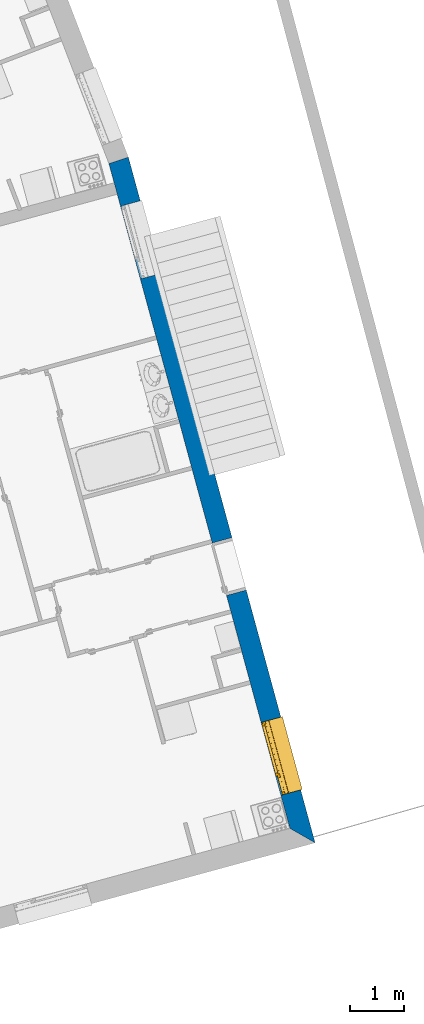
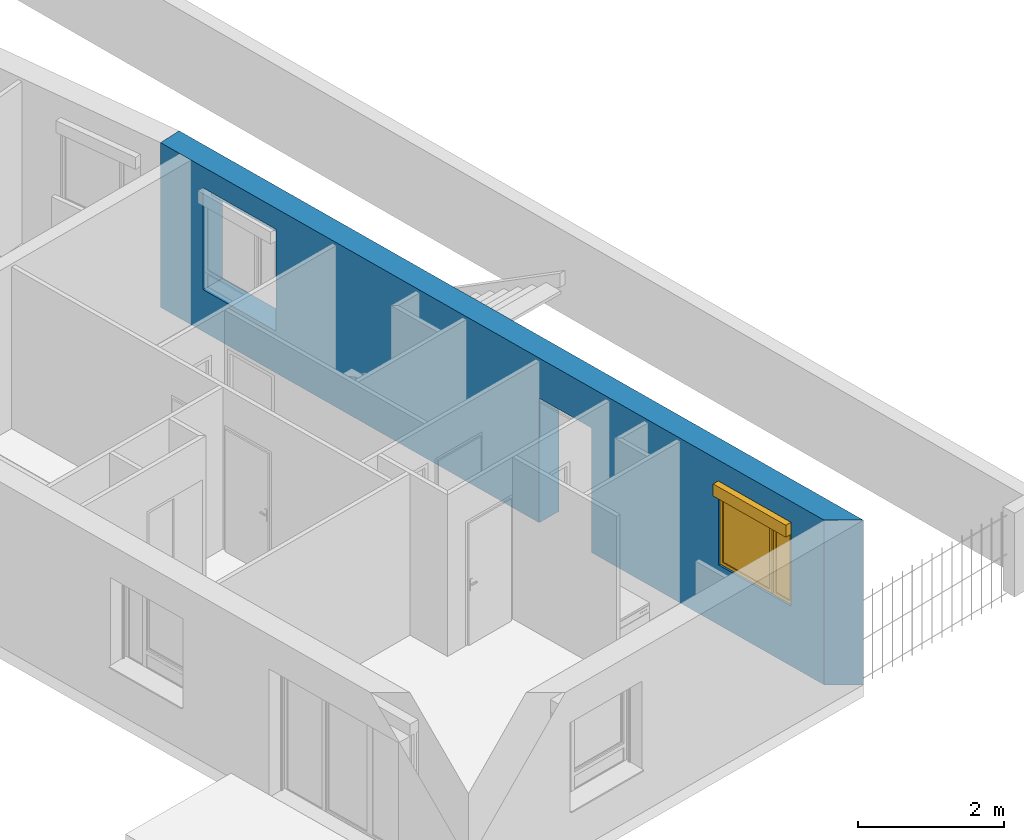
# One storey, part 81 of 195: 1 wall, 1 window, 3 openings.
"""IFC2X3 building model written with IfcOpenShell, lengths in metres."""

from ifc_helpers import new_model, entity, si_unit, converted_unit, derived_unit, money_unit, direction, frame, origin_with_axes, origin_2d_with_axis, place, context, subcontext, project, spatial, polyline, rectangle, outline, extrude, open_shell, faceted_brep, surface_model, source, transform, mapped, material, layer, layer_set, layer_usage, type_object, element, fill, save


model = new_model("IFC2X3")

# Units and contexts
model_context = context("Model", 3, precision=1e-05, world=origin_with_axes(), true_north=direction((0.0, 1.0)))
body_context = subcontext(model_context, "Body", "Model", "MODEL_VIEW")
ifc_project = project(units=[si_unit("LENGTHUNIT", "METRE"), si_unit("AREAUNIT", "SQUARE_METRE"), si_unit("VOLUMEUNIT", "CUBIC_METRE"), converted_unit("PLANEANGLEUNIT", "DEGREE", entity("IfcPlaneAngleMeasure", 0.0174532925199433), si_unit("PLANEANGLEUNIT", "RADIAN"), dimensions=[0, 0, 0, 0, 0, 0, 0]), money_unit("CHF"), converted_unit("TIMEUNIT", "Year", entity("IfcTimeMeasure", 31557600.0), si_unit("TIMEUNIT", "SECOND"), dimensions=[0, 0, 1, 0, 0, 0, 0]), si_unit("MASSUNIT", "GRAM", prefix="KILO"), si_unit("THERMODYNAMICTEMPERATUREUNIT", "DEGREE_CELSIUS"), si_unit("LUMINOUSINTENSITYUNIT", "LUMEN"), si_unit("ENERGYUNIT", "JOULE", prefix="MEGA"), derived_unit("THERMALCONDUCTANCEUNIT", [(si_unit("POWERUNIT", "WATT"), 1), (si_unit("LENGTHUNIT", "METRE"), -1), (si_unit("THERMODYNAMICTEMPERATUREUNIT", "KELVIN"), -1)]), derived_unit("SPECIFICHEATCAPACITYUNIT", [(si_unit("ENERGYUNIT", "JOULE"), 1), (si_unit("MASSUNIT", "GRAM", prefix="KILO"), -1), (si_unit("THERMODYNAMICTEMPERATUREUNIT", "KELVIN"), -1)]), derived_unit("MASSDENSITYUNIT", [(si_unit("MASSUNIT", "GRAM", prefix="KILO"), 1), (si_unit("VOLUMEUNIT", "CUBIC_METRE"), -1)])], contexts=[model_context])

# Site, building, storey
site_placement = place(None, origin_with_axes())
site = spatial("IfcSite", under=ifc_project, at=site_placement, Name="Site", CompositionType="ELEMENT")
building_placement = place(site_placement, origin_with_axes())
building = spatial("IfcBuilding", under=site, at=building_placement, Name="Bâtiment", CompositionType="ELEMENT")
storey_placement = place(building_placement, origin_with_axes())
storey = spatial("IfcBuildingStorey", under=building, at=storey_placement, Name="rdc", CompositionType="ELEMENT", Elevation=0.0)

# Wall, openings, window
ifc_material_1 = material(Name="Parpaing 312445824")
ifc_layer_1 = layer(ifc_material_1, 0.22, ventilated="UNKNOWN")
ifc_material_2 = material(Name="Isolant styromousse 301821074")
ifc_layer_2 = layer(ifc_material_2, 0.16, ventilated="UNKNOWN")
ifc_layer_set = layer_set([ifc_layer_1, ifc_layer_2], Name="isol int 22+16 0836643197")
ifc_layer_usage = layer_usage(ifc_layer_set, "AXIS2", "NEGATIVE", 0.0)
wall_type = type_object("IfcWallType", Name="isol int 22+16 0836643197 380", PredefinedType="NOTDEFINED")
wall_placement = place(storey_placement, frame((9593.67620369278, -1044.690928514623, 57.7), z_axis=(0.0, 0.0, 1.0), x_axis=(0.2627340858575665, -0.9648682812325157, 0.0)))
wall = element("IfcWallStandardCase", 1, at=wall_placement, inside=storey, type_object=wall_type, material=ifc_layer_usage, Name="Mur-113", context=body_context, shape_type="SweptSolid", body=[
    extrude(outline(polyline([(0.01930253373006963, -0.3799999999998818), (12.8068754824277, -0.3799999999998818), (13.18687548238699, 0.0), (0.0, 0.0), (0.01930253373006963, -0.3799999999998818)])), origin_with_axes(), (0.0, 0.0, 1.0), 2.75),
])
opening_1_placement = place(wall_placement, frame((1.540061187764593, 0.0, 0.7000000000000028), z_axis=(0.0, 0.0, 1.0), x_axis=(1.0, 0.0, 0.0)))
element("IfcOpeningElement", 2, at=opening_1_placement, cuts=wall, Name="Fen-045", context=body_context, shape_type="Brep", body=[
    faceted_brep([(-0.7000000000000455, -0.220000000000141, 1.5), (0.6999999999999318, -0.2200000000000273, 1.5), (0.6999999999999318, 3.343922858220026, 1.5), (-0.7000000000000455, 3.343922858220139, 1.5), (-0.7000000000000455, -0.220000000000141, 1.700000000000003), (0.6999999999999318, -0.2200000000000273, 1.700000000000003), (0.6999999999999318, -0.2999999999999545, 1.5), (0.6999999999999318, -0.2999999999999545, 0.0), (0.6999999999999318, 3.343922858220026, 0.0), (-0.7000000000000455, 3.343922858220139, 0.0), (-0.7000000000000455, -0.3000000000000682, 1.5), (-0.7000000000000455, -0.3000000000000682, 0.0), (-0.7000000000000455, -0.4799999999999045, 1.5), (-0.7000000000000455, -0.4799999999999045, 1.700000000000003), (0.6999999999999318, -0.4800000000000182, 1.700000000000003), (0.6999999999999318, -0.4800000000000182, 1.5), (0.6999999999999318, -3.72392285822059, 1.5), (0.6999999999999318, -3.72392285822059, 0.0), (-0.7000000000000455, -3.723922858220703, 0.0), (-0.7000000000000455, -3.723922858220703, 1.5)], [[[0, 1, 2, 3]], [[1, 0, 4, 5]], [[1, 6, 7, 8, 2]], [[2, 8, 9, 3]], [[10, 0, 3, 9, 11]], [[0, 10, 12, 13, 4]], [[14, 5, 4, 13]], [[6, 1, 5, 14, 15]], [[6, 15, 16, 17, 7]], [[7, 11, 9, 8]], [[12, 10, 11, 18, 19]], [[12, 15, 14, 13]], [[15, 12, 19, 16]], [[19, 18, 17, 16]], [[11, 7, 17, 18]]]),
])
opening_2_placement = place(wall_placement, frame((11.46788983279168, 0.0, 1.0), z_axis=(0.0, 0.0, 1.0), x_axis=(1.0, 0.0, 0.0)))
opening_2 = element("IfcOpeningElement", 3, at=opening_2_placement, cuts=wall, Name="Fen-045", context=body_context, shape_type="Brep", body=[
    faceted_brep([(-0.6999999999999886, -0.220000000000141, 1.200000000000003), (0.6999999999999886, -0.220000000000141, 1.200000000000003), (0.6999999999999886, 3.343922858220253, 1.200000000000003), (-0.7000000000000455, 3.343922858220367, 1.200000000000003), (-0.6999999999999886, -0.220000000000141, 1.399999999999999), (0.6999999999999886, -0.220000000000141, 1.399999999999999), (0.6999999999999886, -0.3000000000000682, 1.200000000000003), (0.6999999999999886, -0.3000000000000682, 0.0), (0.6999999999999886, 3.343922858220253, 0.0), (-0.7000000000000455, 3.343922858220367, 0.0), (-0.6999999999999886, -0.3000000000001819, 1.200000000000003), (-0.6999999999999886, -0.3000000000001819, 0.0), (-0.6999999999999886, -0.4800000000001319, 1.200000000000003), (-0.6999999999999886, -0.4800000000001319, 1.399999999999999), (0.6999999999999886, -0.4800000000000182, 1.399999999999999), (0.6999999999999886, -0.4800000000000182, 1.200000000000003), (0.7000000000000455, -3.723922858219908, 1.200000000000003), (0.7000000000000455, -3.723922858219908, 0.0), (-0.6999999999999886, -3.723922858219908, 0.0), (-0.6999999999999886, -3.723922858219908, 1.200000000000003)], [[[0, 1, 2, 3]], [[1, 0, 4, 5]], [[1, 6, 7, 8, 2]], [[2, 8, 9, 3]], [[10, 0, 3, 9, 11]], [[0, 10, 12, 13, 4]], [[14, 5, 4, 13]], [[6, 1, 5, 14, 15]], [[6, 15, 16, 17, 7]], [[7, 11, 9, 8]], [[12, 10, 11, 18, 19]], [[12, 15, 14, 13]], [[15, 12, 19, 16]], [[19, 18, 17, 16]], [[11, 7, 17, 18]]]),
])
opening_3_placement = place(wall_placement, frame((7.820826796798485, 0.0, 0.0), z_axis=(0.0, 0.0, 1.0), x_axis=(1.0, 0.0, 0.0)))
element("IfcOpeningElement", 4, at=opening_3_placement, cuts=wall, Name="Por-290", context=body_context, shape_type="SweptSolid", body=[
    extrude(rectangle(XDim=1.01000001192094, YDim=2.079999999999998, at=origin_2d_with_axis()), frame((-5.960487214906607e-09, 0.3799999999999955, 1.039999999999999), z_axis=(0.0, -1.0, 0.0), x_axis=(-1.0, 0.0, 0.0)), (0.0, 0.0, 1.0), 0.76),
])
window_style = type_object("IfcWindowStyle", Name="Fenêtre variable 27", ConstructionType="NOTDEFINED", OperationType="DOUBLE_PANEL_VERTICAL", ParameterTakesPrecedence=False, Sizeable=False)
shared_shape = source(origin_with_axes(), body_context, "Body", "SurfaceModel", [
    surface_model("IfcShellBasedSurfaceModel", [(0.7, -0.05100000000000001, 0.05), (-0.7, -0.05100000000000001, 0.05000000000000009), (-0.7, -0.05100000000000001, 0.04000000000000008), (0.7, -0.05100000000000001, 0.04), (-0.7, -0.3799999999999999, 0.02900000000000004), (0.7, -0.3799999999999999, 0.02899999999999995), (-0.7, -0.3799999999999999, 0.00900000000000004), (0.7, -0.3799999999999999, 0.008999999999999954), (-0.7, -0.3699999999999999, 0.01900000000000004), (0.7, -0.3699999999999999, 0.01899999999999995)], [open_shell([[[0, 1, 2, 3]], [[3, 2, 4, 5]], [[5, 4, 6, 7]], [[7, 6, 8, 9]]])]),
    faceted_brep([(0.7, -0.13, 1.4), (0.7, 0.13, 1.4), (0.697, 0.13, 1.4), (0.697, -0.13, 1.4), (0.7, -0.13, 1.2), (0.7, 0.13, 1.2), (0.697, 0.13, 1.2), (0.697, -0.13, 1.2)], [[[0, 1, 2, 3]], [[0, 4, 5, 1]], [[1, 5, 6, 2]], [[3, 2, 6, 7]], [[4, 0, 3, 7]], [[5, 4, 7, 6]]]),
    faceted_brep([(-0.6970000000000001, -0.1299999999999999, 1.4), (-0.6970000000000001, 0.1300000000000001, 1.4), (-0.7000000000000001, 0.1300000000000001, 1.4), (-0.7000000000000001, -0.1299999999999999, 1.4), (-0.6970000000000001, -0.1299999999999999, 1.2), (-0.6970000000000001, 0.1300000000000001, 1.2), (-0.7000000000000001, 0.1300000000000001, 1.2), (-0.7000000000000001, -0.1299999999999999, 1.2)], [[[0, 1, 2, 3]], [[0, 4, 5, 1]], [[1, 5, 6, 2]], [[3, 2, 6, 7]], [[4, 0, 3, 7]], [[5, 4, 7, 6]]]),
    faceted_brep([(0.697, -0.13, 1.2), (0.697, -0.13, 1.4), (-0.697, -0.1299999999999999, 1.4), (-0.697, -0.1299999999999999, 1.2), (0.697, -0.127, 1.2), (0.697, -0.127, 1.397), (0.697, 0.127, 1.397), (0.697, 0.127, 1.203), (0.697, -0.108, 1.203), (0.697, -0.108, 1.2), (0.697, 0.13, 1.2), (0.697, 0.13, 1.4), (-0.697, 0.1300000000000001, 1.4), (-0.697, 0.1300000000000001, 1.2), (-0.697, -0.1079999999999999, 1.2), (-0.697, -0.1079999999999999, 1.203), (-0.697, 0.1270000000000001, 1.203), (-0.697, 0.1270000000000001, 1.397), (-0.697, -0.1269999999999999, 1.397), (-0.697, -0.1269999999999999, 1.2)], [[[0, 1, 2, 3]], [[0, 4, 5, 6, 7, 8, 9, 10, 11, 1]], [[1, 11, 12, 2]], [[3, 2, 12, 13, 14, 15, 16, 17, 18, 19]], [[4, 0, 3, 19]], [[5, 4, 19, 18]], [[6, 5, 18, 17]], [[7, 6, 17, 16]], [[8, 7, 16, 15]], [[9, 8, 15, 14]], [[10, 9, 14, 13]], [[11, 10, 13, 12]]]),
    faceted_brep([(0.694, -0.08075423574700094, 1.285760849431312), (0.694, -0.07705479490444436, 1.271954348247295), (0.694, -0.07101408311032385, 1.259), (0.694, -0.06281564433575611, 1.247291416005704), (0.694, -0.05270858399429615, 1.237184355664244), (0.694, -0.04099999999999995, 1.228985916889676), (0.694, -0.02804565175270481, 1.222945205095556), (0.694, -0.01423915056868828, 1.219245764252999), (0.694, 0.0, 1.218), (0.694, 0.01423915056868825, 1.219245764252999), (0.694, 0.02804565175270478, 1.222945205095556), (0.694, 0.04099999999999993, 1.228985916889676), (0.694, 0.05270858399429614, 1.237184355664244), (0.694, 0.06281564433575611, 1.247291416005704), (0.694, 0.07101408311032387, 1.259), (0.694, 0.07705479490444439, 1.271954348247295), (0.694, 0.08075423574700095, 1.285760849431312), (0.694, 0.0819999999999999, 1.3), (0.694, 0.08075423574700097, 1.314239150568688), (0.694, 0.0770547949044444, 1.328045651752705), (0.694, 0.07101408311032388, 1.341), (0.694, 0.06281564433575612, 1.352708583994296), (0.694, 0.05270858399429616, 1.362815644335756), (0.694, 0.04099999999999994, 1.371014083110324), (0.694, 0.02804565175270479, 1.377054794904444), (0.694, 0.01423915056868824, 1.380754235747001), (0.694, 0.0, 1.382), (0.694, -0.01423915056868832, 1.380754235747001), (0.694, -0.02804565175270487, 1.377054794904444), (0.694, -0.04100000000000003, 1.371014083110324), (0.694, -0.05270858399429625, 1.362815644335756), (0.694, -0.06281564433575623, 1.352708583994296), (0.694, -0.07101408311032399, 1.341), (0.694, -0.07705479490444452, 1.328045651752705), (0.694, -0.0807542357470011, 1.314239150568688), (0.694, -0.08200000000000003, 1.3), (-0.694, -0.08075423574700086, 1.285760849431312), (-0.694, -0.07705479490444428, 1.271954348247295), (-0.694, -0.07101408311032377, 1.259), (-0.694, -0.06281564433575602, 1.247291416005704), (-0.694, -0.05270858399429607, 1.237184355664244), (-0.694, -0.04099999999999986, 1.228985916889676), (-0.694, -0.02804565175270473, 1.222945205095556), (-0.694, -0.0142391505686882, 1.219245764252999), (-0.694, 0.0, 1.218), (-0.694, 0.01423915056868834, 1.219245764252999), (-0.694, 0.02804565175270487, 1.222945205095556), (-0.694, 0.04100000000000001, 1.228985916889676), (-0.694, 0.05270858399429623, 1.237184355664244), (-0.694, 0.06281564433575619, 1.247291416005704), (-0.694, 0.07101408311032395, 1.259), (-0.694, 0.07705479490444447, 1.271954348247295), (-0.694, 0.08075423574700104, 1.285760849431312), (-0.694, 0.08199999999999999, 1.3), (-0.694, 0.08075423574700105, 1.314239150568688), (-0.694, 0.07705479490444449, 1.328045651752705), (-0.694, 0.07101408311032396, 1.341), (-0.694, 0.0628156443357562, 1.352708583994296), (-0.694, 0.05270858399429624, 1.362815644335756), (-0.694, 0.04100000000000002, 1.371014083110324), (-0.694, 0.02804565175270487, 1.377054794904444), (-0.694, 0.01423915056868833, 1.380754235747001), (-0.694, 0.0, 1.382), (-0.694, -0.01423915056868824, 1.380754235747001), (-0.694, -0.02804565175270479, 1.377054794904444), (-0.694, -0.04099999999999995, 1.371014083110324), (-0.694, -0.05270858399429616, 1.362815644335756), (-0.694, -0.06281564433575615, 1.352708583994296), (-0.694, -0.07101408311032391, 1.341), (-0.694, -0.07705479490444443, 1.328045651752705), (-0.694, -0.08075423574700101, 1.314239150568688), (-0.694, -0.08199999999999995, 1.3)], [[[0, 1, 2, 3, 4, 5, 6, 7, 8, 9, 10, 11, 12, 13, 14, 15, 16, 17, 18, 19, 20, 21, 22, 23, 24, 25, 26, 27, 28, 29, 30, 31, 32, 33, 34, 35]], [[1, 0, 36, 37]], [[2, 1, 37, 38]], [[3, 2, 38, 39]], [[4, 3, 39, 40]], [[5, 4, 40, 41]], [[6, 5, 41, 42]], [[7, 6, 42, 43]], [[8, 7, 43, 44]], [[9, 8, 44, 45]], [[10, 9, 45, 46]], [[11, 10, 46, 47]], [[12, 11, 47, 48]], [[13, 12, 48, 49]], [[14, 13, 49, 50]], [[15, 14, 50, 51]], [[16, 15, 51, 52]], [[17, 16, 52, 53]], [[18, 17, 53, 54]], [[19, 18, 54, 55]], [[20, 19, 55, 56]], [[21, 20, 56, 57]], [[22, 21, 57, 58]], [[23, 22, 58, 59]], [[24, 23, 59, 60]], [[25, 24, 60, 61]], [[26, 25, 61, 62]], [[27, 26, 62, 63]], [[28, 27, 63, 64]], [[29, 28, 64, 65]], [[30, 29, 65, 66]], [[31, 30, 66, 67]], [[32, 31, 67, 68]], [[33, 32, 68, 69]], [[34, 33, 69, 70]], [[35, 34, 70, 71]], [[0, 35, 71, 36]], [[36, 71, 70, 69, 68, 67, 66, 65, 64, 63, 62, 61, 60, 59, 58, 57, 56, 55, 54, 53, 52, 51, 50, 49, 48, 47, 46, 45, 44, 43, 42, 41, 40, 39, 38, 37]]]),
    faceted_brep([(-0.7, -0.105, 0.03), (-0.7, -0.13, 0.03), (-0.7, -0.1299999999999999, 1.2), (-0.7, -0.1049999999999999, 1.2), (-0.6749999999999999, -0.105, 0.03), (-0.6749999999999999, -0.108, 0.03), (-0.697, -0.108, 0.03), (-0.697, -0.127, 0.03), (-0.6749999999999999, -0.127, 0.03), (-0.6749999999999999, -0.13, 0.03), (-0.6749999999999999, -0.1299999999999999, 1.2), (-0.6749999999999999, -0.1269999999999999, 1.2), (-0.697, -0.1269999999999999, 1.2), (-0.697, -0.1079999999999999, 1.2), (-0.6749999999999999, -0.1079999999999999, 1.2), (-0.6749999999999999, -0.1049999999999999, 1.2)], [[[0, 1, 2, 3]], [[0, 4, 5, 6, 7, 8, 9, 1]], [[1, 9, 10, 2]], [[3, 2, 10, 11, 12, 13, 14, 15]], [[4, 0, 3, 15]], [[5, 4, 15, 14]], [[6, 5, 14, 13]], [[7, 6, 13, 12]], [[8, 7, 12, 11]], [[9, 8, 11, 10]]]),
    faceted_brep([(0.7, -0.105, 0.03), (0.7, -0.1049999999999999, 1.2), (0.7, -0.1299999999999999, 1.2), (0.7, -0.13, 0.03), (0.6749999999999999, -0.105, 0.03), (0.6749999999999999, -0.1049999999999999, 1.2), (0.6749999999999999, -0.1079999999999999, 1.2), (0.697, -0.1079999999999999, 1.2), (0.697, -0.1269999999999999, 1.2), (0.6749999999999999, -0.1269999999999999, 1.2), (0.6749999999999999, -0.1299999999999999, 1.2), (0.6749999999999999, -0.13, 0.03), (0.6749999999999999, -0.127, 0.03), (0.697, -0.127, 0.03), (0.697, -0.108, 0.03), (0.6749999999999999, -0.108, 0.03)], [[[0, 1, 2, 3]], [[4, 5, 1, 0]], [[1, 5, 6, 7, 8, 9, 10, 2]], [[3, 2, 10, 11]], [[0, 3, 11, 12, 13, 14, 15, 4]], [[15, 6, 5, 4]], [[14, 7, 6, 15]], [[13, 8, 7, 14]], [[12, 9, 8, 13]], [[11, 10, 9, 12]]]),
    surface_model("IfcShellBasedSurfaceModel", [(0.697, -0.115, 1.3), (-0.697, -0.1149999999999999, 1.3), (-0.697, -0.12, 1.3), (0.697, -0.12, 1.3), (0.697, -0.115, 1.3), (0.697, -0.12, 1.3), (-0.697, -0.1199999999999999, 1.3), (-0.697, -0.1149999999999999, 1.3)], [open_shell([[[0, 1, 2, 3]], [[4, 5, 6, 7]]])]),
    faceted_brep([(0.697, -0.115, 1.3), (0.697, -0.1166666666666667, 1.283333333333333), (-0.697, -0.1166666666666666, 1.283333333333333), (-0.697, -0.1149999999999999, 1.3), (0.697, -0.12, 1.3), (0.697, -0.1216666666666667, 1.283333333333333), (0.697, -0.1216666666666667, 1.266666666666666), (0.697, -0.12, 1.25), (0.697, -0.115, 1.25), (0.697, -0.1166666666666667, 1.266666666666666), (-0.697, -0.1166666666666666, 1.266666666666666), (-0.697, -0.1149999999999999, 1.25), (-0.697, -0.1199999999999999, 1.25), (-0.697, -0.1216666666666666, 1.266666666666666), (-0.697, -0.1216666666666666, 1.283333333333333), (-0.697, -0.1199999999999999, 1.3)], [[[0, 1, 2, 3]], [[0, 4, 5, 6, 7, 8, 9, 1]], [[1, 9, 10, 2]], [[3, 2, 10, 11, 12, 13, 14, 15]], [[4, 0, 3, 15]], [[5, 4, 15, 14]], [[6, 5, 14, 13]], [[7, 6, 13, 12]], [[8, 7, 12, 11]], [[9, 8, 11, 10]]]),
    faceted_brep([(0.697, -0.115, 1.25), (0.697, -0.1166666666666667, 1.233333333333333), (-0.697, -0.1166666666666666, 1.233333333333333), (-0.697, -0.1149999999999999, 1.25), (0.697, -0.12, 1.25), (0.697, -0.1216666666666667, 1.233333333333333), (0.697, -0.1216666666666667, 1.216666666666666), (0.697, -0.12, 1.2), (0.697, -0.115, 1.2), (0.697, -0.1166666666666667, 1.216666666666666), (-0.697, -0.1166666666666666, 1.216666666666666), (-0.697, -0.1149999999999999, 1.2), (-0.697, -0.1199999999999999, 1.2), (-0.697, -0.1216666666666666, 1.216666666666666), (-0.697, -0.1216666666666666, 1.233333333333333), (-0.697, -0.1199999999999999, 1.25)], [[[0, 1, 2, 3]], [[0, 4, 5, 6, 7, 8, 9, 1]], [[1, 9, 10, 2]], [[3, 2, 10, 11, 12, 13, 14, 15]], [[4, 0, 3, 15]], [[5, 4, 15, 14]], [[6, 5, 14, 13]], [[7, 6, 13, 12]], [[8, 7, 12, 11]], [[9, 8, 11, 10]]]),
    faceted_brep([(0.6749999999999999, 0.0, 1.15), (0.6749999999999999, -0.02500000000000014, 1.15), (0.6499999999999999, -0.02500000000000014, 1.15), (0.6499999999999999, -0.05000000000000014, 1.15), (0.7, -0.05000000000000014, 1.15), (0.7, 0.0, 1.15), (0.6749999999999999, 0.0, 0.05000000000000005), (0.6749999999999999, -0.02500000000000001, 0.05000000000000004), (0.6499999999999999, -0.02500000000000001, 0.05000000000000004), (0.6499999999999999, -0.05000000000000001, 0.05000000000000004), (0.7, -0.05000000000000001, 0.05000000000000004), (0.7, 0.0, 0.05000000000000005)], [[[0, 1, 2, 3, 4, 5]], [[1, 0, 6, 7]], [[8, 2, 1, 7]], [[2, 8, 9, 3]], [[4, 3, 9, 10]], [[5, 4, 10, 11]], [[6, 0, 5, 11]], [[7, 6, 11, 10, 9, 8]]]),
    faceted_brep([(-0.3068894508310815, -0.02500000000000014, 1.15), (-0.3318894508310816, -0.02500000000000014, 1.15), (-0.3318894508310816, 0.0, 1.15), (-0.3768894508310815, 0.0, 1.15), (-0.3768894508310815, -0.05000000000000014, 1.15), (-0.3068894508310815, -0.05000000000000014, 1.15), (-0.3068894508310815, -0.02500000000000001, 0.05000000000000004), (-0.3318894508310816, -0.02500000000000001, 0.05000000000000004), (-0.3318894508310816, 0.0, 0.05000000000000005), (-0.3768894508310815, 0.0, 0.05000000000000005), (-0.3768894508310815, -0.05000000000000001, 0.05000000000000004), (-0.3068894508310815, -0.05000000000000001, 0.05000000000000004)], [[[0, 1, 2, 3, 4, 5]], [[1, 0, 6, 7]], [[8, 2, 1, 7]], [[2, 8, 9, 3]], [[9, 10, 4, 3]], [[10, 11, 5, 4]], [[6, 0, 5, 11]], [[7, 6, 11, 10, 9, 8]]]),
    faceted_brep([(-0.3068894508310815, -0.02500000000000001, 0.05000000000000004), (-0.3318894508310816, -0.02500000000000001, 0.05000000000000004), (-0.3318894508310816, 0.0, 0.05000000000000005), (-0.3768894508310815, 0.0, 0.05000000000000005), (-0.3768894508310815, -0.05000000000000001, 0.05000000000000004), (-0.3068894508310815, -0.05000000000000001, 0.05000000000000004), (0.6499999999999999, -0.02500000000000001, 0.05000000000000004), (0.6749999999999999, -0.02500000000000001, 0.05000000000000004), (0.6749999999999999, -0.025, 0.02500000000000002), (-0.3318894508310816, -0.025, 0.02500000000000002), (-0.3318894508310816, 0.0, 0.02500000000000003), (0.6749999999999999, 0.0, 0.02500000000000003), (0.6749999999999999, 0.0, 0.05000000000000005), (0.7, 0.0, 0.05000000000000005), (0.7, 0.0, 0.0), (-0.7, 0.0, 0.0), (-0.7, 0.0, 0.05000000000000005), (-0.6499999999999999, 0.0, 0.05000000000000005), (-0.6499999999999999, -0.05000000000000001, 0.05000000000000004), (0.7, -0.05000000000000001, 0.05000000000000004), (0.6499999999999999, -0.05000000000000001, 0.05000000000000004), (-0.7, -0.05000000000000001, 0.05000000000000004), (-0.7, -0.05, 0.0), (0.7, -0.05, 0.0)], [[[0, 1, 2, 3, 4, 5]], [[1, 0, 6, 7, 8, 9]], [[10, 2, 1, 9]], [[11, 12, 13, 14, 15, 16, 17, 3, 2, 10]], [[17, 18, 4, 3]], [[19, 20, 5, 4, 18, 21, 22, 23]], [[6, 0, 5, 20]], [[7, 6, 20, 19, 13, 12]], [[7, 12, 11, 8]], [[11, 10, 9, 8]], [[13, 19, 23, 14]], [[14, 23, 22, 15]], [[15, 22, 21, 16]], [[16, 21, 18, 17]]]),
    faceted_brep([(0.6749999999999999, 0.0, 1.15), (0.6749999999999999, 0.0, 1.175), (-0.3318894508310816, 0.0, 1.175), (-0.3318894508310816, 0.0, 1.15), (-0.3768894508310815, 0.0, 1.15), (-0.6499999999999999, 0.0, 1.15), (-0.7, 0.0, 1.15), (-0.7, 0.0, 1.2), (0.7, 0.0, 1.2), (0.7, 0.0, 1.15), (0.6749999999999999, -0.02500000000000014, 1.15), (0.6749999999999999, -0.02500000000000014, 1.175), (-0.3318894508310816, -0.02500000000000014, 1.175), (-0.3318894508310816, -0.02500000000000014, 1.15), (-0.3068894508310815, -0.02500000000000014, 1.15), (-0.3068894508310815, -0.05000000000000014, 1.15), (-0.3768894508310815, -0.05000000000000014, 1.15), (-0.6499999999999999, -0.05000000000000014, 1.15), (-0.7, -0.05000000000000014, 1.15), (-0.7, -0.05000000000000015, 1.2), (0.7, -0.05000000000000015, 1.2), (0.7, -0.05000000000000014, 1.15), (0.6499999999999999, -0.05000000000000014, 1.15), (0.6499999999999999, -0.02500000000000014, 1.15)], [[[0, 1, 2, 3, 4, 5, 6, 7, 8, 9]], [[1, 0, 10, 11]], [[2, 1, 11, 12]], [[3, 2, 12, 13]], [[13, 14, 15, 16, 4, 3]], [[4, 16, 17, 5]], [[5, 17, 18, 6]], [[6, 18, 19, 7]], [[7, 19, 20, 8]], [[8, 20, 21, 9]], [[10, 0, 9, 21, 22, 23]], [[14, 13, 12, 11, 10, 23]], [[14, 23, 22, 15]], [[16, 15, 22, 21, 20, 19, 18, 17]]]),
    faceted_brep([(-0.6499999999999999, -0.05000000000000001, 0.05), (-0.7, -0.05000000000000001, 0.05), (-0.7, 0.0, 0.05000000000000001), (-0.6499999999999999, 0.0, 0.05000000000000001), (-0.6499999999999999, -0.05000000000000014, 1.15), (-0.7, -0.05000000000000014, 1.15), (-0.7, 0.0, 1.15), (-0.6499999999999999, 0.0, 1.15)], [[[0, 1, 2, 3]], [[0, 4, 5, 1]], [[1, 5, 6, 2]], [[3, 2, 6, 7]], [[4, 0, 3, 7]], [[5, 4, 7, 6]]]),
    faceted_brep([(0.625, -0.02500000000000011, 1.125), (0.6749999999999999, -0.02500000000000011, 1.125), (0.6749999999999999, 0.0249999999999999, 1.125), (0.625, 0.0249999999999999, 1.125), (0.625, -0.02499999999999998, 0.07500000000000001), (0.6749999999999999, -0.02499999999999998, 0.07500000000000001), (0.6749999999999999, 0.02500000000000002, 0.07500000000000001), (0.625, 0.02500000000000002, 0.07500000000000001)], [[[0, 1, 2, 3]], [[0, 4, 5, 1]], [[1, 5, 6, 2]], [[3, 2, 6, 7]], [[4, 0, 3, 7]], [[5, 4, 7, 6]]]),
    faceted_brep([(-0.2818894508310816, -0.02500000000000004, 0.07500000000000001), (-0.3318894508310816, -0.02500000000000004, 0.07500000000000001), (-0.3318894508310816, 0.02499999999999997, 0.07500000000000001), (-0.2818894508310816, 0.02499999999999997, 0.07500000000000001), (-0.2818894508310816, -0.02500000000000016, 1.125), (-0.3318894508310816, -0.02500000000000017, 1.125), (-0.3318894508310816, 0.02499999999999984, 1.125), (-0.2818894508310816, 0.02499999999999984, 1.125)], [[[0, 1, 2, 3]], [[0, 4, 5, 1]], [[1, 5, 6, 2]], [[3, 2, 6, 7]], [[4, 0, 3, 7]], [[5, 4, 7, 6]]]),
    faceted_brep([(-0.3318894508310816, -0.02500000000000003, 0.025), (-0.3318894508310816, -0.02500000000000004, 0.07500000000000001), (-0.3318894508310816, 0.02499999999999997, 0.07500000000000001), (-0.3318894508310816, 0.02499999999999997, 0.02500000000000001), (0.6749999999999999, -0.02499999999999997, 0.025), (0.6749999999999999, -0.02499999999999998, 0.07500000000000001), (0.625, -0.02499999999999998, 0.07500000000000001), (-0.2818894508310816, -0.02500000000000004, 0.07500000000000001), (-0.2818894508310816, 0.02499999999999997, 0.07500000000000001), (0.625, 0.02500000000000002, 0.07500000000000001), (0.6749999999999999, 0.02500000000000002, 0.07500000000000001), (0.6749999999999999, 0.02500000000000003, 0.02500000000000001)], [[[0, 1, 2, 3]], [[0, 4, 5, 6, 7, 1]], [[1, 7, 8, 2]], [[3, 2, 8, 9, 10, 11]], [[4, 0, 3, 11]], [[5, 4, 11, 10]], [[6, 5, 10, 9]], [[7, 6, 9, 8]]]),
    faceted_brep([(0.6749999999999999, -0.02500000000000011, 1.175), (0.6749999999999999, -0.02500000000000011, 1.125), (0.6749999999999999, 0.0249999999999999, 1.125), (0.6749999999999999, 0.02499999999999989, 1.175), (-0.3318894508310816, -0.02500000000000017, 1.175), (-0.3318894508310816, -0.02500000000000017, 1.125), (-0.2818894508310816, -0.02500000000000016, 1.125), (0.625, -0.02500000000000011, 1.125), (0.625, 0.0249999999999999, 1.125), (-0.2818894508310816, 0.02499999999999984, 1.125), (-0.3318894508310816, 0.02499999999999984, 1.125), (-0.3318894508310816, 0.02499999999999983, 1.175)], [[[0, 1, 2, 3]], [[0, 4, 5, 6, 7, 1]], [[1, 7, 8, 2]], [[3, 2, 8, 9, 10, 11]], [[4, 0, 3, 11]], [[5, 4, 11, 10]], [[6, 5, 10, 9]], [[7, 6, 9, 8]]]),
    surface_model("IfcShellBasedSurfaceModel", [(0.625, -0.01000000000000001, 0.07500000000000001), (0.625, -0.01000000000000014, 1.125), (-0.2818894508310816, -0.01000000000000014, 1.125), (-0.2818894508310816, -0.01000000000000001, 0.07500000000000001)], [open_shell([[[0, 1, 2, 3]]])]),
    surface_model("IfcShellBasedSurfaceModel", [(0.625, 0.009999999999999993, 0.07500000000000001), (-0.2818894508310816, 0.009999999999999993, 0.07500000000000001), (-0.2818894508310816, 0.009999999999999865, 1.125), (0.625, 0.009999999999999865, 1.125)], [open_shell([[[0, 1, 2, 3]]])]),
    surface_model("IfcShellBasedSurfaceModel", [(-0.3768894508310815, -0.035, 0.05), (-0.3768894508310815, -0.03500000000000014, 1.15), (-0.65, -0.03500000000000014, 1.15), (-0.65, -0.035, 0.05)], [open_shell([[[0, 1, 2, 3]]])]),
    surface_model("IfcShellBasedSurfaceModel", [(-0.3768894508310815, -0.015, 0.05), (-0.65, -0.015, 0.05), (-0.65, -0.01500000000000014, 1.15), (-0.3768894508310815, -0.01500000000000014, 1.15)], [open_shell([[[0, 1, 2, 3]]])]),
])
window_placement = place(opening_2_placement, frame((0.7000000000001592, 0.0, 0.0), z_axis=(0.0, 0.0, 1.0), x_axis=(-1.0, 0.0, 0.0)))
window = element("IfcWindow", 5, at=window_placement, inside=storey, type_object=window_style, Name="Fen-045", OverallHeight=1.2, OverallWidth=1.4, context=body_context, shape_type="MappedRepresentation", body=[
    mapped(shared_shape, transform((0.7000000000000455, 0.3500000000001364, 0.0))),
])
fill(opening_2, window)

save(model, "model.ifc")
